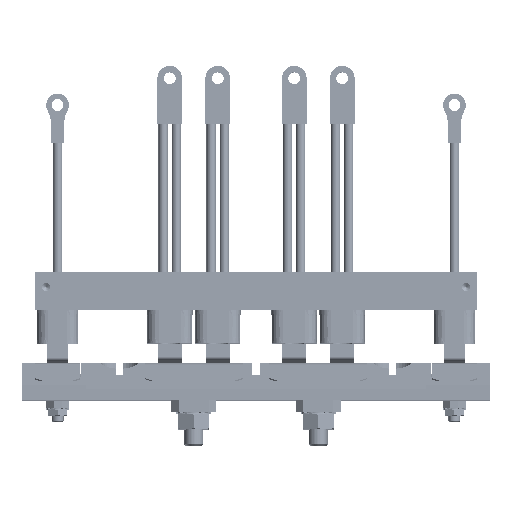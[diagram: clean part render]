
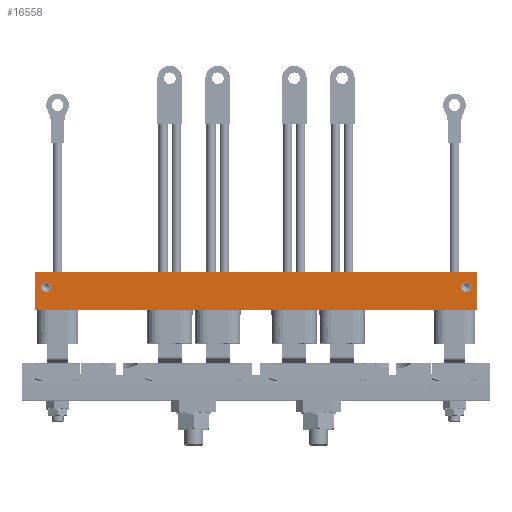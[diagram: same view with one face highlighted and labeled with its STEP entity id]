
A CAD part, top view. The second image highlights one B-rep face of the part: STEP entity #16558.
In plain terms, the highlighted planar face has unit normal (0, 0, 1) as drawn and (1, 0, 0) by its records, which use the part's own axes.
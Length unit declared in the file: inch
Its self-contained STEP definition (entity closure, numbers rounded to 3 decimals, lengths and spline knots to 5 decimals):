
#2472 = ORIENTED_EDGE ( 'NONE', *, *, #10943, .T. ) ;
#2613 = VERTEX_POINT ( 'NONE', #34517 ) ;
#3716 = LINE ( 'NONE', #11000, #21886 ) ;
#4069 = VECTOR ( 'NONE', #30905, 39.37008 ) ;
#4286 = LINE ( 'NONE', #30831, #4069 ) ;
#4735 = VECTOR ( 'NONE', #36731, 39.37008 ) ;
#4963 = CIRCLE ( 'NONE', #14433, 0.082 ) ;
#5013 = CIRCLE ( 'NONE', #37784, 0.082 ) ;
#5148 = LINE ( 'NONE', #37163, #4735 ) ;
#5571 = FACE_OUTER_BOUND ( 'NONE', #17789, .T. ) ;
#5706 = ORIENTED_EDGE ( 'NONE', *, *, #7227, .F. ) ;
#5904 = FACE_BOUND ( 'NONE', #17355, .T. ) ;
#7227 = EDGE_CURVE ( 'NONE', #14665, #26814, #22695, .T. ) ;
#7387 = DIRECTION ( 'NONE',  ( -1., 0., 0. ) ) ;
#7523 = DIRECTION ( 'NONE',  ( 0., 0., 1. ) ) ;
#7666 = CARTESIAN_POINT ( 'NONE',  ( 4.313, 0.625, 0. ) ) ;
#7763 = EDGE_CURVE ( 'NONE', #15968, #7924, #31455, .T. ) ;
#7924 = VERTEX_POINT ( 'NONE', #33435 ) ;
#9153 = CARTESIAN_POINT ( 'NONE',  ( 4.313, 0.625, 0. ) ) ;
#9829 = CARTESIAN_POINT ( 'NONE',  ( 4.313, 0.375, -7.1055 ) ) ;
#10243 = PLANE ( 'NONE',  #22534 ) ;
#10309 = ORIENTED_EDGE ( 'NONE', *, *, #14544, .F. ) ;
#10911 = DIRECTION ( 'NONE',  ( 0., 0., -1. ) ) ;
#10943 = EDGE_CURVE ( 'NONE', #2613, #19180, #27920, .T. ) ;
#11000 = CARTESIAN_POINT ( 'NONE',  ( 4.313, 0.625, 0. ) ) ;
#12296 = CARTESIAN_POINT ( 'NONE',  ( 4.313, 0.375, -0.1055 ) ) ;
#14433 = AXIS2_PLACEMENT_3D ( 'NONE', #33763, #33693, #33619 ) ;
#14544 = EDGE_CURVE ( 'NONE', #33731, #25708, #3716, .T. ) ;
#14665 = VERTEX_POINT ( 'NONE', #9829 ) ;
#14704 = ORIENTED_EDGE ( 'NONE', *, *, #16745, .F. ) ;
#15968 = VERTEX_POINT ( 'NONE', #12296 ) ;
#16558 = ADVANCED_FACE ( 'NONE', ( #5904, #27740, #5571 ), #10243, .F. ) ;
#16676 = EDGE_CURVE ( 'NONE', #33731, #2613, #5148, .T. ) ;
#16738 = EDGE_CURVE ( 'NONE', #7924, #15968, #5013, .T. ) ;
#16745 = EDGE_CURVE ( 'NONE', #26814, #14665, #4963, .T. ) ;
#16791 = EDGE_CURVE ( 'NONE', #25708, #19180, #4286, .T. ) ;
#17345 = EDGE_LOOP ( 'NONE', ( #14704, #5706 ) ) ;
#17355 = EDGE_LOOP ( 'NONE', ( #23079, #27083 ) ) ;
#17789 = EDGE_LOOP ( 'NONE', ( #2472, #31997, #10309, #19156 ) ) ;
#19156 = ORIENTED_EDGE ( 'NONE', *, *, #16676, .T. ) ;
#19180 = VERTEX_POINT ( 'NONE', #21290 ) ;
#19580 = DIRECTION ( 'NONE',  ( 0., 0., -1. ) ) ;
#19624 = DIRECTION ( 'NONE',  ( 1., 0., 0. ) ) ;
#20338 = CARTESIAN_POINT ( 'NONE',  ( 4.313, 0.375, -0.1875 ) ) ;
#21290 = CARTESIAN_POINT ( 'NONE',  ( 4.313, 0., -7.375 ) ) ;
#21886 = VECTOR ( 'NONE', #10911, 39.37008 ) ;
#22534 = AXIS2_PLACEMENT_3D ( 'NONE', #7666, #7387, #7523 ) ;
#22695 = CIRCLE ( 'NONE', #38181, 0.082 ) ;
#23079 = ORIENTED_EDGE ( 'NONE', *, *, #16738, .F. ) ;
#25708 = VERTEX_POINT ( 'NONE', #37318 ) ;
#26202 = CARTESIAN_POINT ( 'NONE',  ( 4.313, 0.375, -7.2695 ) ) ;
#26814 = VERTEX_POINT ( 'NONE', #26202 ) ;
#27083 = ORIENTED_EDGE ( 'NONE', *, *, #7763, .F. ) ;
#27740 = FACE_BOUND ( 'NONE', #17345, .T. ) ;
#27858 = VECTOR ( 'NONE', #29938, 39.37008 ) ;
#27920 = LINE ( 'NONE', #29808, #27858 ) ;
#28258 = DIRECTION ( 'NONE',  ( 0., 0., -1. ) ) ;
#28288 = DIRECTION ( 'NONE',  ( 1., 0., 0. ) ) ;
#28435 = CARTESIAN_POINT ( 'NONE',  ( 4.313, 0.375, -7.1875 ) ) ;
#29808 = CARTESIAN_POINT ( 'NONE',  ( 4.313, 0., 0. ) ) ;
#29938 = DIRECTION ( 'NONE',  ( 0., 0., -1. ) ) ;
#30831 = CARTESIAN_POINT ( 'NONE',  ( 4.313, 0.625, -7.375 ) ) ;
#30905 = DIRECTION ( 'NONE',  ( 0., -1., 0. ) ) ;
#31455 = CIRCLE ( 'NONE', #35351, 0.082 ) ;
#31997 = ORIENTED_EDGE ( 'NONE', *, *, #16791, .F. ) ;
#33435 = CARTESIAN_POINT ( 'NONE',  ( 4.313, 0.375, -0.2695 ) ) ;
#33619 = DIRECTION ( 'NONE',  ( 0., 0., -1. ) ) ;
#33693 = DIRECTION ( 'NONE',  ( 1., 0., 0. ) ) ;
#33731 = VERTEX_POINT ( 'NONE', #9153 ) ;
#33763 = CARTESIAN_POINT ( 'NONE',  ( 4.313, 0.375, -7.1875 ) ) ;
#34153 = DIRECTION ( 'NONE',  ( 0., 0., -1. ) ) ;
#34197 = DIRECTION ( 'NONE',  ( 1., 0., 0. ) ) ;
#34234 = CARTESIAN_POINT ( 'NONE',  ( 4.313, 0.375, -0.1875 ) ) ;
#34517 = CARTESIAN_POINT ( 'NONE',  ( 4.313, 0., 0. ) ) ;
#35351 = AXIS2_PLACEMENT_3D ( 'NONE', #20338, #19624, #19580 ) ;
#36731 = DIRECTION ( 'NONE',  ( 0., -1., 0. ) ) ;
#37163 = CARTESIAN_POINT ( 'NONE',  ( 4.313, 0.625, 0. ) ) ;
#37318 = CARTESIAN_POINT ( 'NONE',  ( 4.313, 0.625, -7.375 ) ) ;
#37784 = AXIS2_PLACEMENT_3D ( 'NONE', #34234, #34197, #34153 ) ;
#38181 = AXIS2_PLACEMENT_3D ( 'NONE', #28435, #28288, #28258 ) ;
